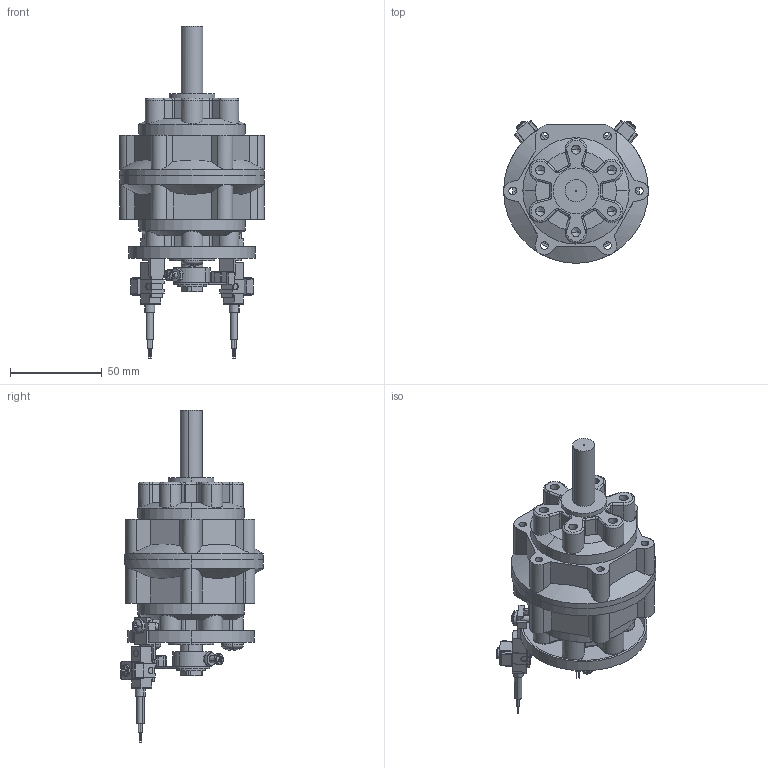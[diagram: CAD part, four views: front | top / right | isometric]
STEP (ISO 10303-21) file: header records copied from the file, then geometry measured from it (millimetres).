
FILE_DESCRIPTION (( 'STEP AP203' ), '1' );
FILE_NAME ('PRN50#-#-#-#-FM-#.STEP', '2016-01-14T16:40:09', ( '' ), ( '' ), 'SwSTEP 2.0', 'SolidWorks 2014', '' );
FILE_SCHEMA (( 'CONFIG_CONTROL_DESIGN' ));
Length unit declared in the file: millimetre
Products named in the file (17): mark-PRN50; M4螺絲; 十字M6螺絲; 零件5; FM; 零件2; 感應開關-板金1; 1; PRN50 (2); PRN50 (1); 側鐵片; M4螺帽; PRN50#-#-#-#-FM-#; PRN50 (3); 板金1; 零件1; 50-FM
Assembly tree (19 placements, depth 3):
  PRN50#-#-#-#-FM-#
    PRN50 (1)
    PRN50 (2)
    PRN50 (3)
    mark-PRN50
    零件1
    十字M6螺絲  x2
    FM
      零件2
      零件5
      M4螺絲
      M4螺帽
      50-FM
    感應開關-板金1  x2
      1
      側鐵片
      M4螺絲
      板金1
Bounding box: 79 x 77.96 x 181.2 mm (x, y, z)
Volume: 262115.8 mm3; surface area: 81380.6 mm2
Topology: 34 solids, 34 shells, 1075 faces, 2687 edges, 1674 vertices
Faces by surface type: plane 504, cylinder 347, cone 105, torus 89, sphere 22, bspline 8
Entity records: 27237 total; most frequent: CARTESIAN_POINT 5574, DIRECTION 4325, ORIENTED_EDGE 4010, EDGE_CURVE 2005, AXIS2_PLACEMENT_3D 1648, VERTEX_POINT 1274, VECTOR 1029, LINE 1029
